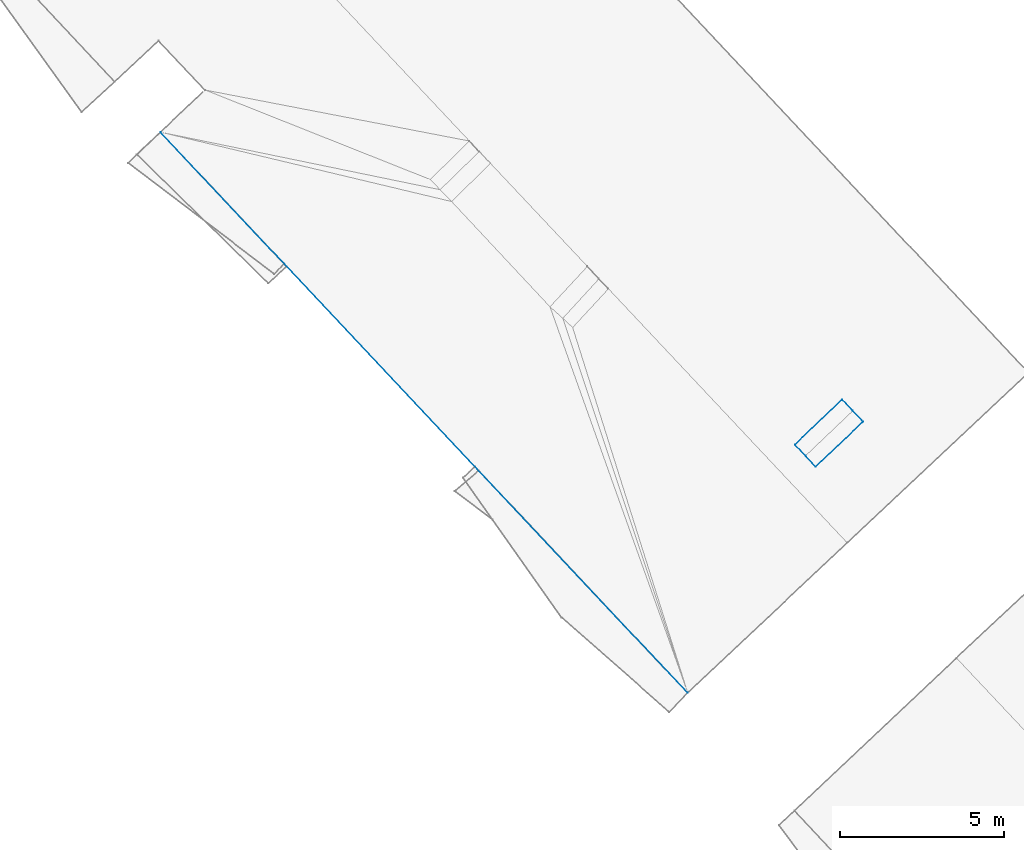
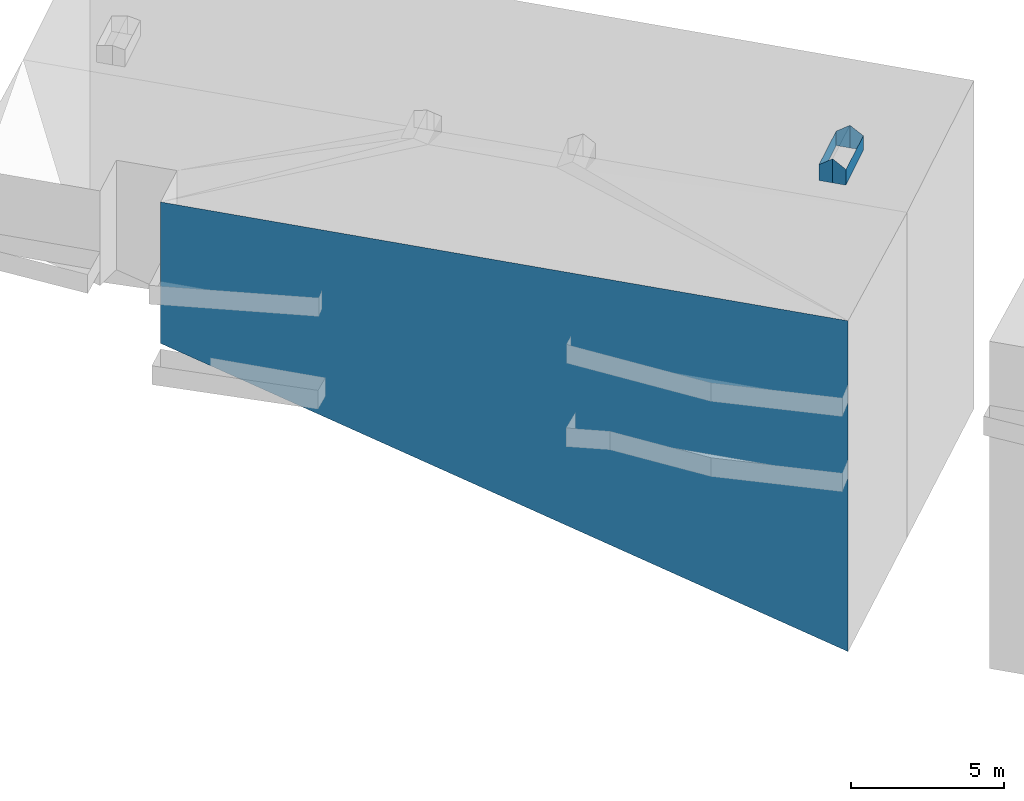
# Not in any storey, part 50 of 136: 7 walls.
"""IFC4 building model written with IfcOpenShell, lengths in metres."""

import ifcopenshell
import ifcopenshell.guid

model = None  # the IFC model being written
_history = None  # IfcOwnerHistory: only IFC2X3 demands one
_inside = {}  # id of a spatial element -> (the spatial element, [elements in it])
_under = {}  # id of a project, library or spatial element -> (it, [spatial elements below it])
_declared = {}  # id of a project -> (the project, [libraries it declares])
_typed = {}  # id of a type object -> (the type object, [elements of that type])
_made_of = {}  # id of a material, layer set ... -> (it, [elements and type objects made of it])


def new_model(schema):
    """Start an empty IFC model of exactly this schema.

    Asked for "IFC4X3", IfcOpenShell would pick the latest addendum, in which some entities
    have other attributes; the version numbers below select the first issue.
    IFC2X3 requires an IfcOwnerHistory on every rooted entity: one is made here for all.
    """
    global model, _history
    if schema == "IFC4X3":
        model = ifcopenshell.file(schema_version=(4, 3, 0, 0))
    else:
        model = ifcopenshell.file(schema=schema)
    _inside.clear()
    _under.clear()
    _declared.clear()
    _typed.clear()
    _made_of.clear()
    _history = None
    if model.schema == "IFC2X3":
        org = make("IfcOrganization", Name="unknown")
        user = make(
            "IfcPersonAndOrganization",
            ThePerson=make("IfcPerson", FamilyName="unknown"),
            TheOrganization=org,
        )
        app = make(
            "IfcApplication",
            ApplicationDeveloper=org,
            Version="unknown",
            ApplicationFullName="unknown",
            ApplicationIdentifier="unknown",
        )
        _history = make(
            "IfcOwnerHistory",
            OwningUser=user,
            OwningApplication=app,
            ChangeAction="ADDED",
            CreationDate=0,
        )
    return model


def make(cls, **values):
    """One entity of the class cls with the attributes given. An attribute that is None is left unset."""
    return model.create_entity(
        cls, **{name: value for name, value in values.items() if value is not None}
    )


def entity(cls, *values):
    """Any entity or typed value of the class cls, its attributes in the order of the schema. None: left unset."""
    e = model.create_entity(cls)
    for i, value in enumerate(values):
        if value is not None:
            e[i] = value
    return e


def rooted(cls, **values):
    """An entity with a GlobalId (a new one), such as an element, a storey or a relation."""
    return make(cls, GlobalId=ifcopenshell.guid.new(), OwnerHistory=_history, **values)


def si_unit(unit_type, name, prefix=None):
    """IfcSIUnit, for example si_unit("LENGTHUNIT", "METRE", prefix="MILLI")."""
    return make("IfcSIUnit", UnitType=unit_type, Prefix=prefix, Name=name)


def converted_unit(unit_type, name, factor, base, dimensions=None, offset=None):
    """IfcConversionBasedUnit, such as the inch: factor (a typed value) times the base unit."""
    return make(
        "IfcConversionBasedUnit"
        if offset is None
        else "IfcConversionBasedUnitWithOffset",
        ConversionOffset=offset,
        Dimensions=None
        if dimensions is None
        else entity("IfcDimensionalExponents", *dimensions),
        UnitType=unit_type,
        Name=name,
        ConversionFactor=make(
            "IfcMeasureWithUnit", ValueComponent=factor, UnitComponent=base
        ),
    )


def assignment(units):
    """IfcUnitAssignment: the units of a project."""
    return None if units is None else make("IfcUnitAssignment", Units=units)


def point(xyz):
    """IfcCartesianPoint."""
    return None if xyz is None else make("IfcCartesianPoint", Coordinates=xyz)


def direction(xyz):
    """IfcDirection."""
    return None if xyz is None else make("IfcDirection", DirectionRatios=xyz)


def frame(location, z_axis=None, x_axis=None):
    """IfcAxis2Placement3D, a coordinate frame: its origin and axes. An axis left out is left unset."""
    return make(
        "IfcAxis2Placement3D",
        Location=point(location),
        Axis=direction(z_axis),
        RefDirection=direction(x_axis),
    )


def origin():
    """The frame at (0, 0, 0) with its axes left unset."""
    return frame((0.0, 0.0, 0.0))


def place(relative_to, where):
    """IfcLocalPlacement: puts the frame where relative to a parent placement (None: the world)."""
    return make(
        "IfcLocalPlacement", PlacementRelTo=relative_to, RelativePlacement=where
    )


def context(
    kind, dimensions, precision=None, world=None, true_north=None, identifier=None
):
    """IfcGeometricRepresentationContext, for example the 3D "Model" context."""
    return make(
        "IfcGeometricRepresentationContext",
        ContextIdentifier=identifier,
        ContextType=kind,
        CoordinateSpaceDimension=dimensions,
        Precision=precision,
        WorldCoordinateSystem=world,
        TrueNorth=true_north,
    )


def subcontext(parent, identifier, kind, view, scale=None):
    """IfcGeometricRepresentationSubContext, for example "Body" below "Model"."""
    return make(
        "IfcGeometricRepresentationSubContext",
        ContextIdentifier=identifier,
        ContextType=kind,
        ParentContext=parent,
        TargetScale=scale,
        TargetView=view,
    )


def project(units=None, contexts=None):
    """IfcProject with its units and contexts."""
    return rooted(
        "IfcProject",
        Name="project",
        RepresentationContexts=contexts,
        UnitsInContext=assignment(units),
    )


def spatial(cls, under=None, at=None, **own):
    """A site, building, storey or space (cls), placed at a placement, below another one or the project."""
    s = rooted(cls, ObjectPlacement=at, **own)
    if under is not None:
        _under.setdefault(under.id(), (under, []))[1].append(s)
    return s


def faces_of(points, faces, orient=None, outer=None):
    """IfcFace entities. A face is a list of loops; a loop is a list of indices into points, from 0.

    orient and outer hold one flag for each loop. By default every Orientation is true, the
    first loop of a face is its IfcFaceOuterBound and the others are IfcFaceBound.
    """
    made = []
    for i, loops in enumerate(faces):
        bounds = []
        for j, loop in enumerate(loops):
            is_outer = j == 0 if outer is None else outer[i][j]
            bounds.append(
                make(
                    "IfcFaceOuterBound" if is_outer else "IfcFaceBound",
                    Bound=make("IfcPolyLoop", Polygon=[points[k] for k in loop]),
                    Orientation=True if orient is None else orient[i][j],
                )
            )
        made.append(make("IfcFace", Bounds=bounds))
    return made


def face_set(faces, orient=None, outer=None):
    """The faces of one IfcConnectedFaceSet. surface_model builds it on its shared points."""
    return ("IfcConnectedFaceSet", faces, orient, outer)


def surface_model(cls, points, shells):
    """IfcFaceBasedSurfaceModel or IfcShellBasedSurfaceModel (cls): surfaces that need not close."""
    shared = [point(p) for p in points]
    made = [make(c, CfsFaces=faces_of(shared, fs, o, b)) for c, fs, o, b in shells]
    if cls == "IfcFaceBasedSurfaceModel":
        return make(cls, FbsmFaces=made)
    return make(cls, SbsmBoundary=made)


def shape(context_of_items, identifier, shape_type, items):
    """IfcShapeRepresentation: the items that make up one representation, for example the "Body"."""
    return make(
        "IfcShapeRepresentation",
        ContextOfItems=context_of_items,
        RepresentationIdentifier=identifier,
        RepresentationType=shape_type,
        Items=items,
    )


def made_of(thing, what):
    """Note that an element or type object is made of a material, layer set ...; save() writes the relation."""
    if what is not None:
        _made_of.setdefault(what.id(), (what, []))[1].append(thing)
    return thing


def element(
    cls,
    number,
    at=None,
    inside=None,
    cuts=None,
    type_object=None,
    material=None,
    context=None,
    identifier="Body",
    shape_type=None,
    held_by="IfcProductDefinitionShape",
    body=None,
    shapes=None,
    **own,
):
    """One element of the class cls, such as IfcWall. Its Tag is "e" and its number.

    at: its placement. inside: the storey or other place that contains it. cuts: it is an
    opening in that element (IfcRelVoidsElement). A single representation is given by context,
    identifier, shape_type and body (its items); several are given by shapes. held_by: the class
    of the entity that holds the representations. save() writes the other relations.
    """
    e = rooted(cls, Tag="e%d" % number, ObjectPlacement=at, **own)
    if body is not None:
        shapes = [shape(context, identifier, shape_type, body)]
    if shapes is not None:
        e.Representation = make(held_by, Representations=shapes)
    if inside is not None:
        _inside.setdefault(inside.id(), (inside, []))[1].append(e)
    if cuts is not None:
        rooted(
            "IfcRelVoidsElement", RelatingBuildingElement=cuts, RelatedOpeningElement=e
        )
    if type_object is not None:
        _typed.setdefault(type_object.id(), (type_object, []))[1].append(e)
    return made_of(e, material)


def aggregate(whole, parts):
    """IfcRelAggregates: a whole, such as a stair, and the parts it consists of."""
    return rooted("IfcRelAggregates", RelatingObject=whole, RelatedObjects=parts)


def save(model, path):
    """Write the relations noted so far, then the file.

    IfcRelAggregates (storeys below a building ...), IfcRelContainedInSpatialStructure (elements
    in a storey), IfcRelDefinesByType, IfcRelAssociatesMaterial and IfcRelDeclares: one each for
    every whole, place, type object, material and project.
    """
    for whole, parts in _under.values():
        aggregate(whole, parts)
    for where, things in _inside.values():
        rooted(
            "IfcRelContainedInSpatialStructure",
            RelatedElements=things,
            RelatingStructure=where,
        )
    for kind, things in _typed.values():
        rooted("IfcRelDefinesByType", RelatedObjects=things, RelatingType=kind)
    for what, things in _made_of.values():
        rooted("IfcRelAssociatesMaterial", RelatedObjects=things, RelatingMaterial=what)
    for by, libraries in _declared.values():
        rooted("IfcRelDeclares", RelatingContext=by, RelatedDefinitions=libraries)
    model.write(path)


model = new_model("IFC4")

# Units and contexts
model_context = context("Model", 3, precision=1e-05, world=origin())
body_context = subcontext(model_context, "Body", "Model", "MODEL_VIEW")
ifc_project = project(units=[converted_unit("PLANEANGLEUNIT", "DEGREE", entity("IfcRatioMeasure", 0.0174532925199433), si_unit("PLANEANGLEUNIT", "RADIAN"), dimensions=[0, 0, 0, 0, 0, 0, 0]), si_unit("AREAUNIT", "SQUARE_METRE"), si_unit("LENGTHUNIT", "METRE")], contexts=[model_context])

# Site, building
site_placement = place(None, origin())
site = spatial("IfcSite", under=ifc_project, at=site_placement, Name="_site")
building_placement = place(site_placement, origin())
building = spatial("IfcBuilding", under=site, at=building_placement, Name="_building")

# Walls
wall_1_placement = place(building_placement, origin())
element("IfcWall", 1, at=wall_1_placement, inside=building, Name="Wall", PredefinedType="NOTDEFINED", context=body_context, shape_type="SurfaceModel", body=[
    surface_model("IfcFaceBasedSurfaceModel", [(21.48, 118.42, 51.29), (20.03, 117.05, 51.29), (20.03, 117.05, 50.661), (21.48, 118.42, 50.718)], [face_set([[[0, 1, 2, 3]]])]),
])
wall_2_placement = place(building_placement, origin())
element("IfcWall", 2, at=wall_2_placement, inside=building, Name="Wall", PredefinedType="NOTDEFINED", context=body_context, shape_type="SurfaceModel", body=[
    surface_model("IfcFaceBasedSurfaceModel", [(19.72, 117.38, 51.62), (19.4, 117.72, 51.29), (19.4, 117.72, 50.661), (19.72, 117.38, 50.661)], [face_set([[[0, 1, 2, 3]]])]),
])
wall_3_placement = place(building_placement, origin())
element("IfcWall", 3, at=wall_3_placement, inside=building, Name="Wall", PredefinedType="NOTDEFINED", context=body_context, shape_type="SurfaceModel", body=[
    surface_model("IfcFaceBasedSurfaceModel", [(19.4, 117.72, 51.29), (20.84, 119.09, 51.29), (20.84, 119.09, 50.719), (19.4, 117.72, 50.661)], [face_set([[[0, 1, 2, 3]]])]),
])
wall_4_placement = place(building_placement, origin())
element("IfcWall", 4, at=wall_4_placement, inside=building, Name="Wall", PredefinedType="NOTDEFINED", context=body_context, shape_type="SurfaceModel", body=[
    surface_model("IfcFaceBasedSurfaceModel", [(20.84, 119.09, 51.29), (21.16, 118.75, 51.62), (21.16, 118.75, 50.718), (20.84, 119.09, 50.719)], [face_set([[[0, 1, 2, 3]]])]),
])
wall_5_placement = place(building_placement, origin())
element("IfcWall", 5, at=wall_5_placement, inside=building, Name="Wall", PredefinedType="NOTDEFINED", context=body_context, shape_type="SurfaceModel", body=[
    surface_model("IfcFaceBasedSurfaceModel", [(16.14, 110.17, 50.8), (0.11, 127.22, 50.8), (0.11, 127.22, 45.176), (16.14, 110.17, 37.638)], [face_set([[[0, 1, 2, 3]]])]),
])
wall_6_placement = place(building_placement, origin())
element("IfcWall", 6, at=wall_6_placement, inside=building, Name="Wall", PredefinedType="NOTDEFINED", context=body_context, shape_type="SurfaceModel", body=[
    surface_model("IfcFaceBasedSurfaceModel", [(21.16, 118.75, 51.62), (21.48, 118.42, 51.29), (21.48, 118.42, 50.718), (21.16, 118.75, 50.718)], [face_set([[[0, 1, 2, 3]]])]),
])
wall_7_placement = place(building_placement, origin())
element("IfcWall", 7, at=wall_7_placement, inside=building, Name="Wall", PredefinedType="NOTDEFINED", context=body_context, shape_type="SurfaceModel", body=[
    surface_model("IfcFaceBasedSurfaceModel", [(20.03, 117.05, 51.29), (19.72, 117.38, 51.62), (19.72, 117.38, 50.661), (20.03, 117.05, 50.661)], [face_set([[[0, 1, 2, 3]]])]),
])

save(model, "model.ifc")
